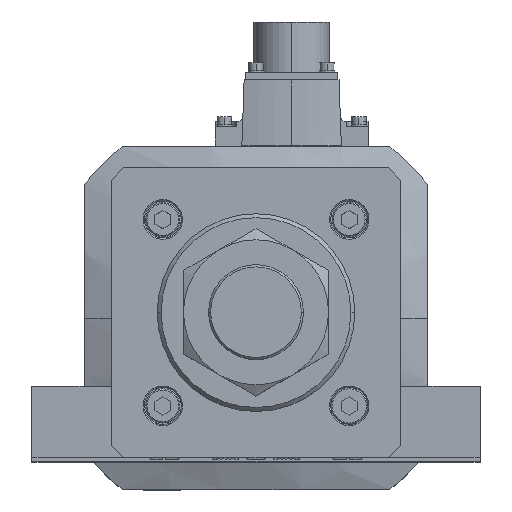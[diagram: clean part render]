
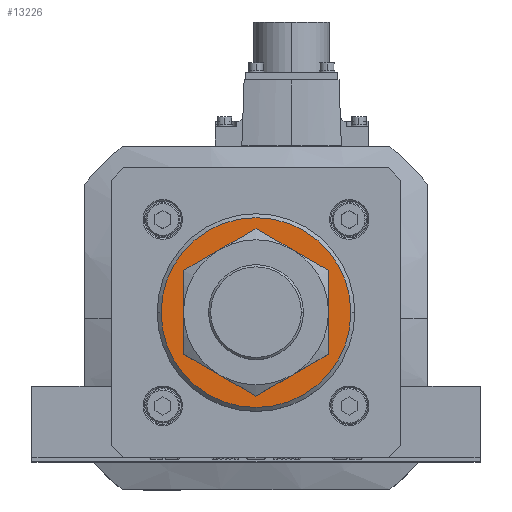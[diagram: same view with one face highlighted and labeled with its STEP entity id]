
A CAD part, top view. The second image highlights one B-rep face of the part: STEP entity #13226.
In plain terms, the highlighted planar face has unit normal (0, 0, 1).
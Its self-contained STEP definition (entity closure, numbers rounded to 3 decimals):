
#380 = AXIS2_PLACEMENT_3D ( 'NONE', #8152, #19326, #34164 ) ;
#1171 = DIRECTION ( 'NONE',  ( 0., 0., 1. ) ) ;
#1231 = CIRCLE ( 'NONE', #2879, 23. ) ;
#1248 = AXIS2_PLACEMENT_3D ( 'NONE', #33149, #1171, #15381 ) ;
#1736 = CARTESIAN_POINT ( 'NONE',  ( 0., 0., 946. ) ) ;
#1878 = CARTESIAN_POINT ( 'NONE',  ( 36., 0., 946. ) ) ;
#2879 = AXIS2_PLACEMENT_3D ( 'NONE', #9926, #12704, #12575 ) ;
#3540 = EDGE_LOOP ( 'NONE', ( #14414, #25021 ) ) ;
#4015 = DIRECTION ( 'NONE',  ( 0., 0., 1. ) ) ;
#6916 = DIRECTION ( 'NONE',  ( 1., 0., 0. ) ) ;
#7531 = AXIS2_PLACEMENT_3D ( 'NONE', #28439, #19516, #34226 ) ;
#8152 = CARTESIAN_POINT ( 'NONE',  ( 0., 0., 946. ) ) ;
#8251 = AXIS2_PLACEMENT_3D ( 'NONE', #1736, #4015, #6916 ) ;
#9926 = CARTESIAN_POINT ( 'NONE',  ( 0., 0., 946. ) ) ;
#12575 = DIRECTION ( 'NONE',  ( 1., 0., 0. ) ) ;
#12704 = DIRECTION ( 'NONE',  ( 0., 0., -1. ) ) ;
#12752 = EDGE_CURVE ( 'NONE', #20871, #19621, #16880, .T. ) ;
#13226 = ADVANCED_FACE ( 'NONE', ( #37022, #28268 ), #32890, .T. ) ;
#14414 = ORIENTED_EDGE ( 'NONE', *, *, #24269, .T. ) ;
#15204 = EDGE_CURVE ( 'NONE', #34400, #21705, #29373, .T. ) ;
#15381 = DIRECTION ( 'NONE',  ( 1., 0., 0. ) ) ;
#16880 = CIRCLE ( 'NONE', #8251, 36. ) ;
#19326 = DIRECTION ( 'NONE',  ( 0., 0., 1. ) ) ;
#19516 = DIRECTION ( 'NONE',  ( 0., 0., -1. ) ) ;
#19621 = VERTEX_POINT ( 'NONE', #1878 ) ;
#20869 = CARTESIAN_POINT ( 'NONE',  ( -23., 0., 946. ) ) ;
#20871 = VERTEX_POINT ( 'NONE', #29828 ) ;
#21705 = VERTEX_POINT ( 'NONE', #37583 ) ;
#24269 = EDGE_CURVE ( 'NONE', #21705, #34400, #1231, .T. ) ;
#25021 = ORIENTED_EDGE ( 'NONE', *, *, #15204, .T. ) ;
#28068 = CIRCLE ( 'NONE', #380, 36. ) ;
#28268 = FACE_OUTER_BOUND ( 'NONE', #36433, .T. ) ;
#28439 = CARTESIAN_POINT ( 'NONE',  ( 0., 0., 946. ) ) ;
#29044 = ORIENTED_EDGE ( 'NONE', *, *, #12752, .T. ) ;
#29373 = CIRCLE ( 'NONE', #7531, 23. ) ;
#29752 = EDGE_CURVE ( 'NONE', #19621, #20871, #28068, .T. ) ;
#29828 = CARTESIAN_POINT ( 'NONE',  ( -36., 0., 946. ) ) ;
#32890 = PLANE ( 'NONE',  #1248 ) ;
#33149 = CARTESIAN_POINT ( 'NONE',  ( 0., 0., 946. ) ) ;
#34164 = DIRECTION ( 'NONE',  ( 1., 0., 0. ) ) ;
#34226 = DIRECTION ( 'NONE',  ( 1., 0., 0. ) ) ;
#34400 = VERTEX_POINT ( 'NONE', #20869 ) ;
#36433 = EDGE_LOOP ( 'NONE', ( #29044, #36669 ) ) ;
#36669 = ORIENTED_EDGE ( 'NONE', *, *, #29752, .T. ) ;
#37022 = FACE_BOUND ( 'NONE', #3540, .T. ) ;
#37583 = CARTESIAN_POINT ( 'NONE',  ( 23., 0., 946. ) ) ;
